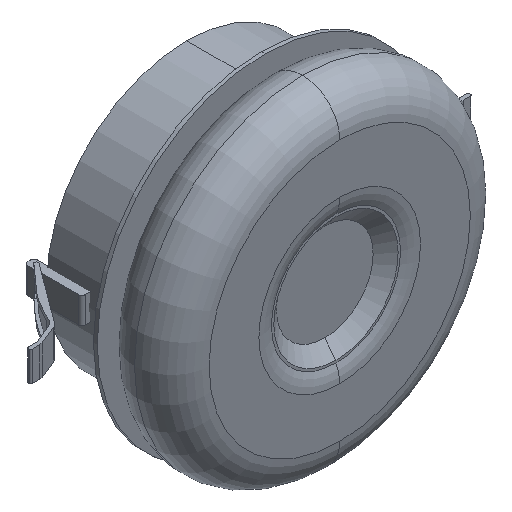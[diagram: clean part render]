
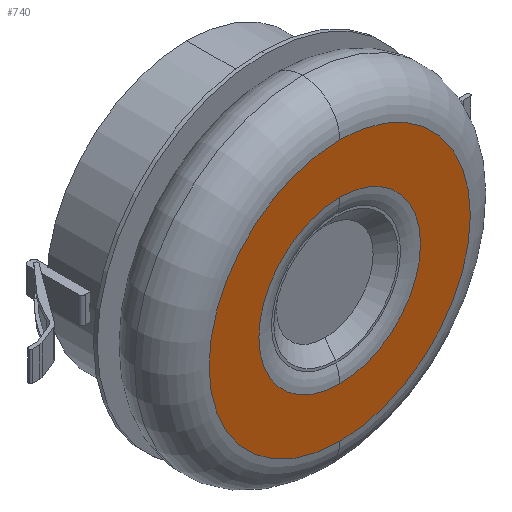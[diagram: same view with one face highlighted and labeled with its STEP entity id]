
A CAD part, isometric view. The second image highlights one B-rep face of the part: STEP entity #740.
In plain terms, the highlighted planar face has unit normal (0, -1, 0).
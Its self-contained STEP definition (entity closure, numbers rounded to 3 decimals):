
#45 = CARTESIAN_POINT ( 'NONE',  ( 0., 0., 21.655 ) ) ;
#107 = VERTEX_POINT ( 'NONE', #621 ) ;
#111 = FACE_BOUND ( 'NONE', #1628, .T. ) ;
#241 = CARTESIAN_POINT ( 'NONE',  ( 0., 0., -35. ) ) ;
#292 = AXIS2_PLACEMENT_3D ( 'NONE', #797, #1176, #384 ) ;
#318 = VERTEX_POINT ( 'NONE', #241 ) ;
#336 = DIRECTION ( 'NONE',  ( 0., -1., 0. ) ) ;
#384 = DIRECTION ( 'NONE',  ( 0., 0., 1. ) ) ;
#397 = CARTESIAN_POINT ( 'NONE',  ( 0., 0., 0. ) ) ;
#445 = CIRCLE ( 'NONE', #2920, 35. ) ;
#470 = ORIENTED_EDGE ( 'NONE', *, *, #2819, .T. ) ;
#621 = CARTESIAN_POINT ( 'NONE',  ( 0., 0., 35. ) ) ;
#740 = ADVANCED_FACE ( 'NONE', ( #111, #2194 ), #1010, .F. ) ;
#797 = CARTESIAN_POINT ( 'NONE',  ( 0., 0., 0. ) ) ;
#799 = DIRECTION ( 'NONE',  ( 0., 1., 0. ) ) ;
#840 = EDGE_CURVE ( 'NONE', #107, #318, #952, .T. ) ;
#935 = ORIENTED_EDGE ( 'NONE', *, *, #1703, .T. ) ;
#952 = CIRCLE ( 'NONE', #3017, 35. ) ;
#988 = EDGE_LOOP ( 'NONE', ( #1203, #935 ) ) ;
#1010 = PLANE ( 'NONE',  #292 ) ;
#1026 = CARTESIAN_POINT ( 'NONE',  ( 0., 0., 0. ) ) ;
#1064 = CIRCLE ( 'NONE', #2974, 21.655 ) ;
#1143 = CARTESIAN_POINT ( 'NONE',  ( 0., 0., -21.655 ) ) ;
#1176 = DIRECTION ( 'NONE',  ( 0., 1., 0. ) ) ;
#1203 = ORIENTED_EDGE ( 'NONE', *, *, #840, .T. ) ;
#1226 = VERTEX_POINT ( 'NONE', #45 ) ;
#1410 = AXIS2_PLACEMENT_3D ( 'NONE', #1764, #799, #2468 ) ;
#1575 = ORIENTED_EDGE ( 'NONE', *, *, #3047, .T. ) ;
#1628 = EDGE_LOOP ( 'NONE', ( #1575, #470 ) ) ;
#1703 = EDGE_CURVE ( 'NONE', #318, #107, #445, .T. ) ;
#1762 = DIRECTION ( 'NONE',  ( 0., -1., 0. ) ) ;
#1764 = CARTESIAN_POINT ( 'NONE',  ( 0., 0., 0. ) ) ;
#1972 = DIRECTION ( 'NONE',  ( 0., 0., 1. ) ) ;
#1974 = VERTEX_POINT ( 'NONE', #1143 ) ;
#2045 = DIRECTION ( 'NONE',  ( 0., 0., 1. ) ) ;
#2073 = CIRCLE ( 'NONE', #1410, 21.655 ) ;
#2113 = DIRECTION ( 'NONE',  ( 0., 1., 0. ) ) ;
#2194 = FACE_OUTER_BOUND ( 'NONE', #988, .T. ) ;
#2468 = DIRECTION ( 'NONE',  ( 0., 0., 1. ) ) ;
#2819 = EDGE_CURVE ( 'NONE', #1974, #1226, #2073, .T. ) ;
#2836 = CARTESIAN_POINT ( 'NONE',  ( 0., 0., 0. ) ) ;
#2860 = DIRECTION ( 'NONE',  ( 0., 0., 1. ) ) ;
#2920 = AXIS2_PLACEMENT_3D ( 'NONE', #1026, #1762, #1972 ) ;
#2974 = AXIS2_PLACEMENT_3D ( 'NONE', #397, #2113, #2860 ) ;
#3017 = AXIS2_PLACEMENT_3D ( 'NONE', #2836, #336, #2045 ) ;
#3047 = EDGE_CURVE ( 'NONE', #1226, #1974, #1064, .T. ) ;
